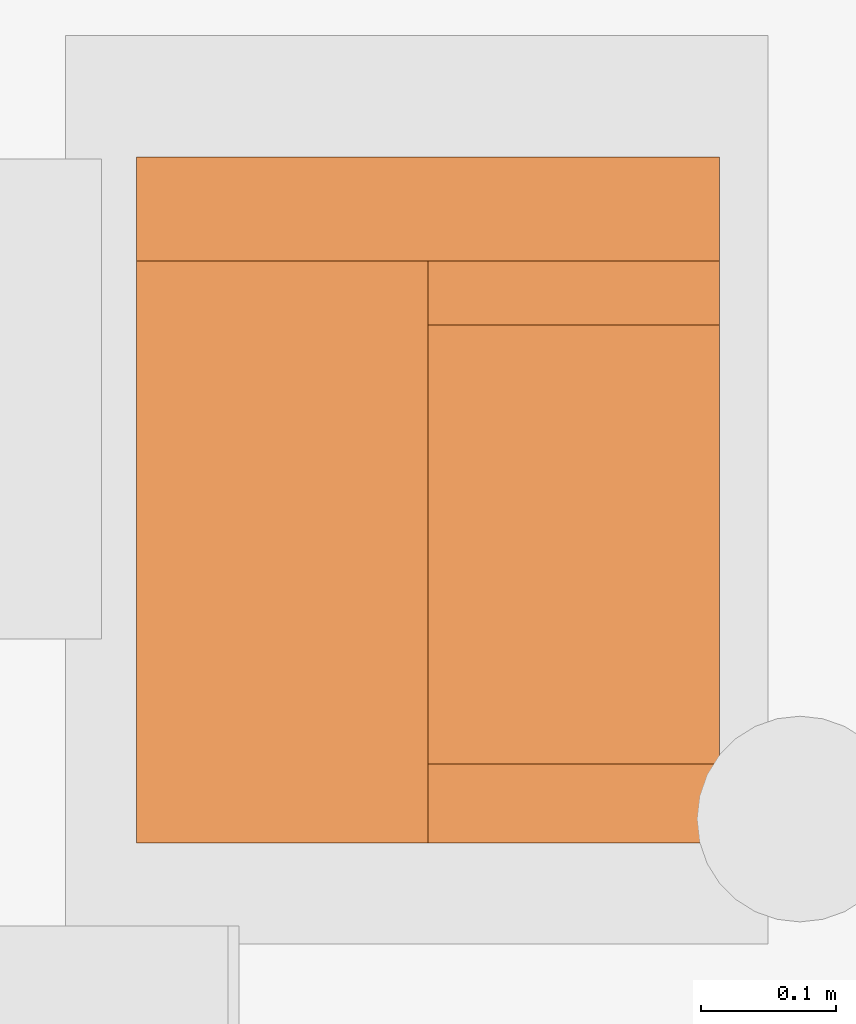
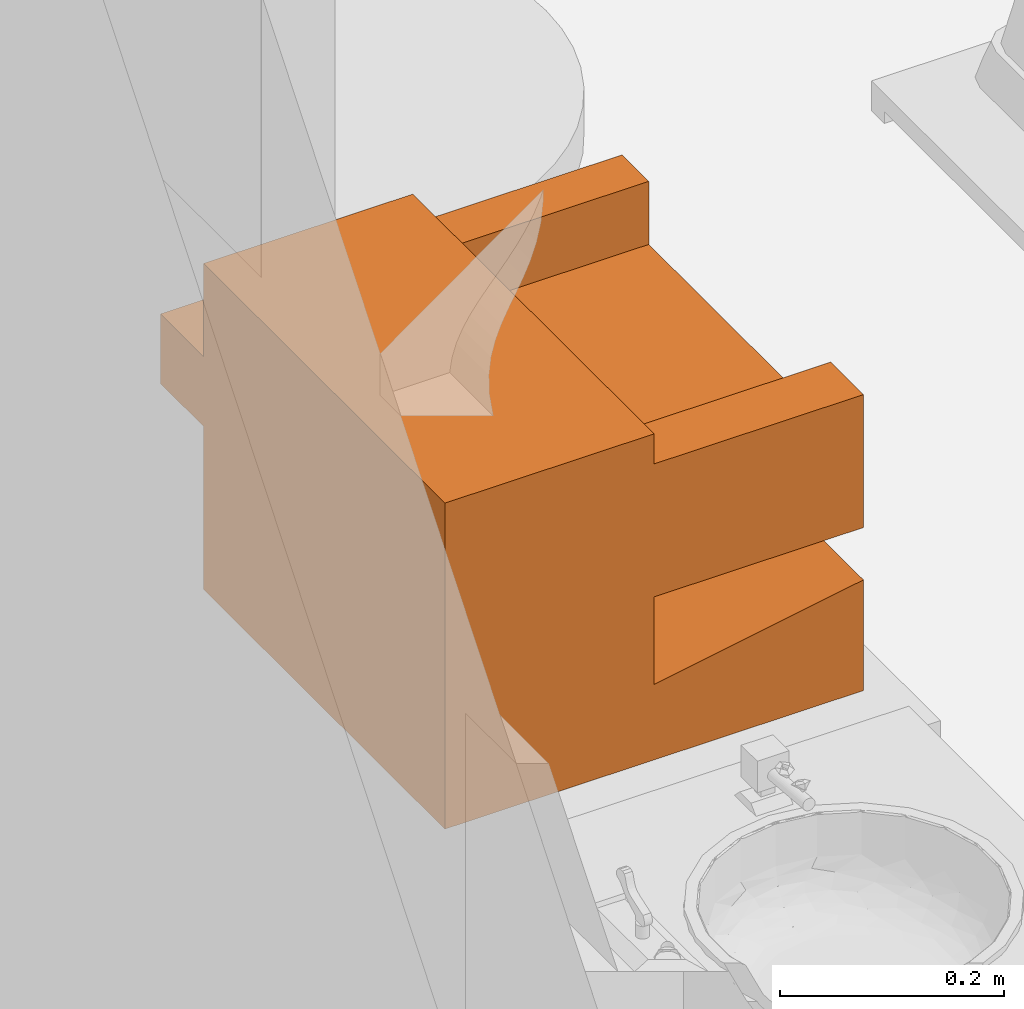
# One storey, part 9 of 11: 1 proxy.
"""IFC2X3 building model written with IfcOpenShell, lengths in feet."""

from ifc_helpers import new_model, entity, si_unit, converted_unit, derived_unit, direction, frame, origin, place, context, subcontext, project, spatial, faceted_brep, source, transform, mapped, type_object, type_shapes, element, save


model = new_model("IFC2X3")

# Units and contexts
model_context = context("Model", 3, precision=0.0001, world=origin(), true_north=direction((6.12303176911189e-17, 1.0)))
body_context = subcontext(model_context, "Body", "Model", "MODEL_VIEW")
ifc_project = project(units=[converted_unit("LENGTHUNIT", "FOOT", entity("IfcRatioMeasure", 0.3048), si_unit("LENGTHUNIT", "METRE"), dimensions=[1, 0, 0, 0, 0, 0, 0]), converted_unit("AREAUNIT", "SQUARE FOOT", entity("IfcRatioMeasure", 0.09290304), si_unit("AREAUNIT", "SQUARE_METRE"), dimensions=[2, 0, 0, 0, 0, 0, 0]), converted_unit("VOLUMEUNIT", "CUBIC FOOT", entity("IfcRatioMeasure", 0.028316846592), si_unit("VOLUMEUNIT", "CUBIC_METRE"), dimensions=[3, 0, 0, 0, 0, 0, 0]), converted_unit("PLANEANGLEUNIT", "DEGREE", entity("IfcRatioMeasure", 0.0174532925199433), si_unit("PLANEANGLEUNIT", "RADIAN"), dimensions=[0, 0, 0, 0, 0, 0, 0]), si_unit("MASSUNIT", "GRAM", prefix="KILO"), derived_unit("MASSDENSITYUNIT", [(si_unit("MASSUNIT", "GRAM", prefix="KILO"), 1), (si_unit("LENGTHUNIT", "METRE"), -3)]), si_unit("TIMEUNIT", "SECOND"), si_unit("FREQUENCYUNIT", "HERTZ"), si_unit("THERMODYNAMICTEMPERATUREUNIT", "DEGREE_CELSIUS"), derived_unit("THERMALTRANSMITTANCEUNIT", [(si_unit("MASSUNIT", "GRAM", prefix="KILO"), 1), (si_unit("THERMODYNAMICTEMPERATUREUNIT", "KELVIN"), -1), (si_unit("TIMEUNIT", "SECOND"), -3)]), derived_unit("VOLUMETRICFLOWRATEUNIT", [(si_unit("LENGTHUNIT", "METRE"), 3), (si_unit("TIMEUNIT", "SECOND"), -1)]), si_unit("ELECTRICCURRENTUNIT", "AMPERE"), si_unit("ELECTRICVOLTAGEUNIT", "VOLT"), si_unit("POWERUNIT", "WATT"), si_unit("FORCEUNIT", "NEWTON"), si_unit("ILLUMINANCEUNIT", "LUX"), si_unit("LUMINOUSFLUXUNIT", "LUMEN"), si_unit("LUMINOUSINTENSITYUNIT", "CANDELA"), derived_unit("USERDEFINED", [(si_unit("MASSUNIT", "GRAM", prefix="KILO"), -1), (si_unit("LENGTHUNIT", "METRE"), -2), (si_unit("TIMEUNIT", "SECOND"), 3), (si_unit("LUMINOUSFLUXUNIT", "LUMEN"), 1)]), derived_unit("LINEARVELOCITYUNIT", [(si_unit("LENGTHUNIT", "METRE"), 1), (si_unit("TIMEUNIT", "SECOND"), -1)]), si_unit("PRESSUREUNIT", "PASCAL"), derived_unit("USERDEFINED", [(si_unit("LENGTHUNIT", "METRE"), -2), (si_unit("MASSUNIT", "GRAM", prefix="KILO"), 1), (si_unit("TIMEUNIT", "SECOND"), -2)])], contexts=[model_context])

# Site, building, storey, space
site_placement = place(None, origin())
site = spatial("IfcSite", under=ifc_project, at=site_placement, Name="Default", CompositionType="ELEMENT")
building_placement = place(site_placement, origin())
building = spatial("IfcBuilding", under=site, at=building_placement, Name="EYE CLINIC:  OPTHALMOLOGY AND OPTOMETRY SERVICES (Ch. 233)", CompositionType="ELEMENT")
storey_placement = place(building_placement, origin())
storey = spatial("IfcBuildingStorey", under=building, at=storey_placement, Name="DATUM", CompositionType="ELEMENT", Elevation=0.0)
space_placement = place(storey_placement, origin())
space = spatial("IfcSpace", under=storey, at=space_placement, Name="(OPET2)", CompositionType="ELEMENT", InteriorOrExteriorSpace="INTERNAL")

# Proxy
building_element_proxy_type = type_object("IfcBuildingElementProxyType", Name="M1825 - Printer, Computer", PredefinedType="NOTDEFINED")
shared_shape = source(origin(), body_context, "Body", "Brep", [
    faceted_brep([(0.708333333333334, 0.833333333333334, 1.16666666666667), (0.0, 0.833333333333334, 1.16666666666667), (0.0, -0.581380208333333, 1.16666666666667), (0.708333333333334, -0.581380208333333, 1.16666666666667), (-0.708333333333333, 0.833333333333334, 0.0), (0.708333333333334, 0.833333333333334, 0.0), (0.708333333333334, -0.581380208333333, 0.0), (-0.708333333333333, -0.581380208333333, 0.0), (-0.708333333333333, 0.833333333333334, 0.395998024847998), (0.0, 0.833333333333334, 0.269898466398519), (0.0, 0.833333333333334, 0.583333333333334), (-0.708333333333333, 0.833333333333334, 0.583333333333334), (-0.708333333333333, 0.833333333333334, 1.05907956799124), (0.0, 0.833333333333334, 1.05907956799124), (-0.708333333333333, 0.641381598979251, 1.05907956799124), (-0.708333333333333, -0.833333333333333, 0.583333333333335), (-0.708333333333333, -0.833333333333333, 0.833333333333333), (-0.708333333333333, -0.581380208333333, 0.833333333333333), (-0.708333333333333, -0.581380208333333, 1.05907956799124), (-0.708333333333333, -0.425130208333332, 1.05907956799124), (-0.708333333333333, -0.425130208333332, 0.833333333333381), (-0.708333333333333, 0.641381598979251, 0.833333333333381), (0.708333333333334, -0.833333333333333, 0.833333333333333), (0.708333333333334, -0.833333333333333, 0.58333333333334), (0.708333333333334, -0.581380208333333, 0.833333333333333), (0.708333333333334, -0.581380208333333, 0.58333333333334), (0.0, -0.425130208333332, 1.05907956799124), (0.0, -0.581380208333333, 1.05907956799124), (0.0, 0.641381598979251, 1.05907956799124), (0.0, 0.641381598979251, 0.833333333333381), (0.0, -0.425130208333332, 0.833333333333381), (0.0, -0.581380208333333, 0.583333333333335), (-0.708333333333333, -0.581380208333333, 0.395998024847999), (0.0, -0.581380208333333, 0.269898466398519)], [[[0, 1, 2, 3]], [[4, 5, 6, 7]], [[5, 4, 8, 9, 10, 11, 12, 13, 1, 0]], [[14, 12, 11, 15, 16, 17, 18, 19, 20, 21]], [[22, 16, 15, 23]], [[5, 0, 3, 24, 22, 23, 25, 6]], [[26, 19, 18, 27]], [[1, 13, 28, 29, 30, 26, 27, 2]], [[30, 20, 19, 26]], [[30, 29, 21, 20]], [[21, 29, 28, 14]], [[24, 17, 16, 22]], [[17, 24, 3, 2, 27, 18]], [[11, 10, 31, 25, 23, 15]], [[9, 8, 32, 33]], [[10, 9, 33, 31]], [[25, 31, 33, 32, 7, 6]], [[13, 12, 14, 28]], [[8, 4, 7, 32]]]),
])
type_shapes(building_element_proxy_type, [shared_shape])
proxy_placement = place(space_placement, frame((-34.8161973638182, 4.03100742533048, 2.2079813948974), z_axis=(0.0, 0.0, 1.0), x_axis=(-1.0, 0.0, 0.0)))
element("IfcBuildingElementProxy", 1, at=proxy_placement, inside=space, type_object=building_element_proxy_type, Name="M1825 - Printer, Computer:M1825 - Printer, Computer", ObjectType="M1825 - Printer, Computer", context=body_context, shape_type="MappedRepresentation", body=[
    mapped(shared_shape, transform((0.0, 0.0, 0.0), scale=1.0)),
])

save(model, "model.ifc")
